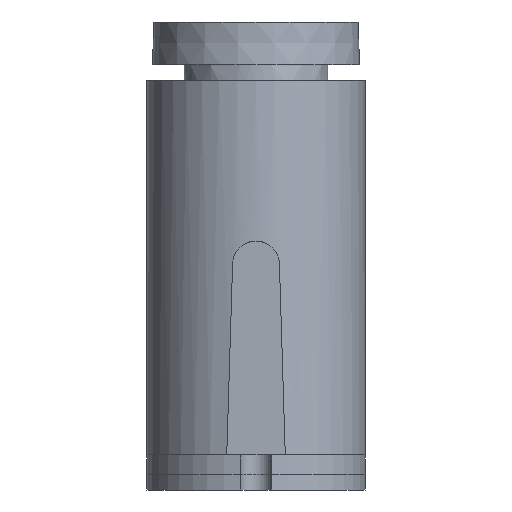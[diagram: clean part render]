
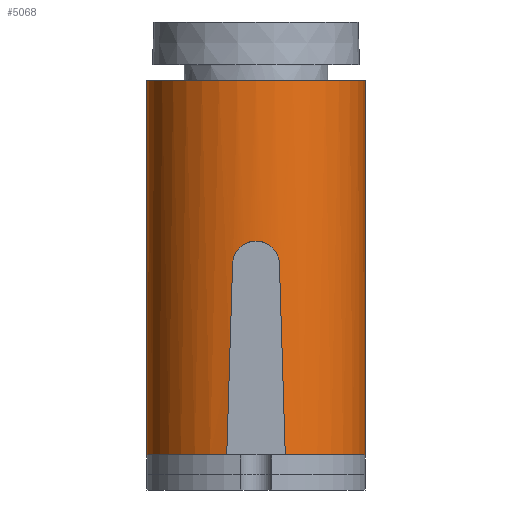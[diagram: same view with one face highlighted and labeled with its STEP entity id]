
A CAD part, left-side view. The second image highlights one B-rep face of the part: STEP entity #5068.
In plain terms, the highlighted cylindrical face has radius 44.45 mm (diameter 88.9 mm), a partial arc.
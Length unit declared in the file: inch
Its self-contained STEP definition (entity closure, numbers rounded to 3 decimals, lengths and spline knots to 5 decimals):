
#15=ELLIPSE('',#5387,57.19345,1.75);
#16=ELLIPSE('',#5391,57.19345,1.75);
#20=ELLIPSE('',#5443,70.98286,1.75);
#21=ELLIPSE('',#5445,70.98286,1.75);
#146=CYLINDRICAL_SURFACE('',#5455,1.75);
#327=CIRCLE('',#5394,1.75);
#331=CIRCLE('',#5398,1.75);
#351=CIRCLE('',#5456,1.75);
#617=FACE_OUTER_BOUND('',#929,.T.);
#929=EDGE_LOOP('',(#3675,#3676,#3677,#3678,#3679,#3680,#3681,#3682,#3683,
#3684));
#1295=LINE('',#19292,#1605);
#1296=LINE('',#19294,#1606);
#1605=VECTOR('',#6286,4.73283);
#1606=VECTOR('',#6289,4.73283);
#1825=B_SPLINE_CURVE_WITH_KNOTS('',3,(#19072,#19073,#19074,#19075,#19076,
#19077,#19078,#19079,#19080,#19081,#19082,#19083,#19084,#19085,#19086,#19087,
#19088,#19089),.UNSPECIFIED.,.F.,.F.,(4,2,2,2,2,2,2,2,4),(0.02902,
0.36018,0.72036,1.08052,1.44067,1.80083,
2.16098,2.52116,2.85233),.UNSPECIFIED.);
#2073=VERTEX_POINT('',#19062);
#2074=VERTEX_POINT('',#19063);
#2077=VERTEX_POINT('',#19071);
#2079=VERTEX_POINT('',#19094);
#2081=VERTEX_POINT('',#19102);
#2088=VERTEX_POINT('',#19116);
#2134=VERTEX_POINT('',#19249);
#2135=VERTEX_POINT('',#19251);
#2137=VERTEX_POINT('',#19256);
#2140=VERTEX_POINT('',#19262);
#2617=EDGE_CURVE('',#2073,#2074,#15,.T.);
#2621=EDGE_CURVE('',#2074,#2077,#1825,.T.);
#2624=EDGE_CURVE('',#2077,#2079,#16,.T.);
#2628=EDGE_CURVE('',#2073,#2081,#327,.T.);
#2636=EDGE_CURVE('',#2088,#2079,#331,.T.);
#2700=EDGE_CURVE('',#2135,#2134,#20,.T.);
#2706=EDGE_CURVE('',#2137,#2140,#21,.T.);
#2721=EDGE_CURVE('',#2088,#2137,#1295,.T.);
#2722=EDGE_CURVE('',#2140,#2135,#351,.T.);
#2723=EDGE_CURVE('',#2081,#2134,#1296,.T.);
#3675=ORIENTED_EDGE('',*,*,#2624,.T.);
#3676=ORIENTED_EDGE('',*,*,#2636,.F.);
#3677=ORIENTED_EDGE('',*,*,#2721,.T.);
#3678=ORIENTED_EDGE('',*,*,#2706,.T.);
#3679=ORIENTED_EDGE('',*,*,#2722,.T.);
#3680=ORIENTED_EDGE('',*,*,#2700,.T.);
#3681=ORIENTED_EDGE('',*,*,#2723,.F.);
#3682=ORIENTED_EDGE('',*,*,#2628,.F.);
#3683=ORIENTED_EDGE('',*,*,#2617,.T.);
#3684=ORIENTED_EDGE('',*,*,#2621,.T.);
#5068=ADVANCED_FACE('',(#617),#146,.T.);
#5387=AXIS2_PLACEMENT_3D('',#19064,#6080,#6081);
#5391=AXIS2_PLACEMENT_3D('',#19095,#6092,#6093);
#5394=AXIS2_PLACEMENT_3D('',#19103,#6101,#6102);
#5398=AXIS2_PLACEMENT_3D('',#19118,#6113,#6114);
#5443=AXIS2_PLACEMENT_3D('',#19252,#6245,#6246);
#5445=AXIS2_PLACEMENT_3D('',#19264,#6254,#6255);
#5455=AXIS2_PLACEMENT_3D('',#19291,#6284,#6285);
#5456=AXIS2_PLACEMENT_3D('',#19293,#6287,#6288);
#6080=DIRECTION('center_axis',(0.,1.,0.031));
#6081=DIRECTION('ref_axis',(0.,0.031,-1.));
#6092=DIRECTION('center_axis',(0.,-1.,
0.031));
#6093=DIRECTION('ref_axis',(0.,0.031,1.));
#6101=DIRECTION('center_axis',(0.,0.,
-1.));
#6102=DIRECTION('ref_axis',(0.,1.,0.));
#6113=DIRECTION('center_axis',(0.,0.,
-1.));
#6114=DIRECTION('ref_axis',(0.,1.,0.));
#6245=DIRECTION('center_axis',(-1.,0.,
-0.025));
#6246=DIRECTION('ref_axis',(-0.025,0.,1.));
#6254=DIRECTION('center_axis',(-1.,0.,
-0.025));
#6255=DIRECTION('ref_axis',(-0.025,0.,1.));
#6284=DIRECTION('center_axis',(0.,0.,
1.));
#6285=DIRECTION('ref_axis',(0.,1.,0.));
#6286=DIRECTION('',(0.,0.,1.));
#6287=DIRECTION('center_axis',(0.,0.,
-1.));
#6288=DIRECTION('ref_axis',(0.,1.,0.));
#6289=DIRECTION('',(0.,0.,1.));
#19062=CARTESIAN_POINT('',(-4.7798,0.46875,0.5625));
#19063=CARTESIAN_POINT('',(-4.8031,0.375,3.625));
#19064=CARTESIAN_POINT('Origin',(-3.09375,0.,15.875));
#19071=CARTESIAN_POINT('',(-4.8031,-0.375,3.625));
#19072=CARTESIAN_POINT('Ctrl Pts',(-4.8031,0.375,3.625));
#19073=CARTESIAN_POINT('Ctrl Pts',(-4.80339,0.37366,
3.66887));
#19074=CARTESIAN_POINT('Ctrl Pts',(-4.80554,0.36415,
3.71482));
#19075=CARTESIAN_POINT('Ctrl Pts',(-4.81297,0.32737,3.80349));
#19076=CARTESIAN_POINT('Ctrl Pts',(-4.81843,0.29852,
3.84558));
#19077=CARTESIAN_POINT('Ctrl Pts',(-4.82862,0.23206,
3.91204));
#19078=CARTESIAN_POINT('Ctrl Pts',(-4.83403,0.18997,
3.94089));
#19079=CARTESIAN_POINT('Ctrl Pts',(-4.84164,0.09758,
3.97922));
#19080=CARTESIAN_POINT('Ctrl Pts',(-4.84375,0.04726,3.9887));
#19081=CARTESIAN_POINT('Ctrl Pts',(-4.84375,-0.04726,3.9887));
#19082=CARTESIAN_POINT('Ctrl Pts',(-4.84164,-0.09758,
3.97922));
#19083=CARTESIAN_POINT('Ctrl Pts',(-4.83403,-0.18997,
3.94089));
#19084=CARTESIAN_POINT('Ctrl Pts',(-4.82862,-0.23206,
3.91204));
#19085=CARTESIAN_POINT('Ctrl Pts',(-4.81843,-0.29852,
3.84558));
#19086=CARTESIAN_POINT('Ctrl Pts',(-4.81297,-0.32737,
3.80349));
#19087=CARTESIAN_POINT('Ctrl Pts',(-4.80554,-0.36415,
3.71482));
#19088=CARTESIAN_POINT('Ctrl Pts',(-4.80339,-0.37366,
3.66887));
#19089=CARTESIAN_POINT('Ctrl Pts',(-4.8031,-0.375,3.625));
#19094=CARTESIAN_POINT('',(-4.7798,-0.46875,0.5625));
#19095=CARTESIAN_POINT('Origin',(-3.09375,0.,15.875));
#19102=CARTESIAN_POINT('',(-3.09375,1.75,0.5625));
#19103=CARTESIAN_POINT('Origin',(-3.09375,0.,0.5625));
#19116=CARTESIAN_POINT('',(-3.09375,-1.75,0.5625));
#19118=CARTESIAN_POINT('Origin',(-3.09375,0.,0.5625));
#19249=CARTESIAN_POINT('',(-3.09375,1.75,5.29533));
#19251=CARTESIAN_POINT('',(-3.125,1.74972,6.5625));
#19252=CARTESIAN_POINT('Origin',(-3.09375,0.,5.29533));
#19256=CARTESIAN_POINT('',(-3.09375,-1.75,5.29533));
#19262=CARTESIAN_POINT('',(-3.125,-1.74972,6.5625));
#19264=CARTESIAN_POINT('Origin',(-3.09375,0.,5.29533));
#19291=CARTESIAN_POINT('Origin',(-3.09375,0.,0.5625));
#19292=CARTESIAN_POINT('',(-3.09375,-1.75,0.5625));
#19293=CARTESIAN_POINT('Origin',(-3.09375,0.,6.5625));
#19294=CARTESIAN_POINT('',(-3.09375,1.75,0.5625));
